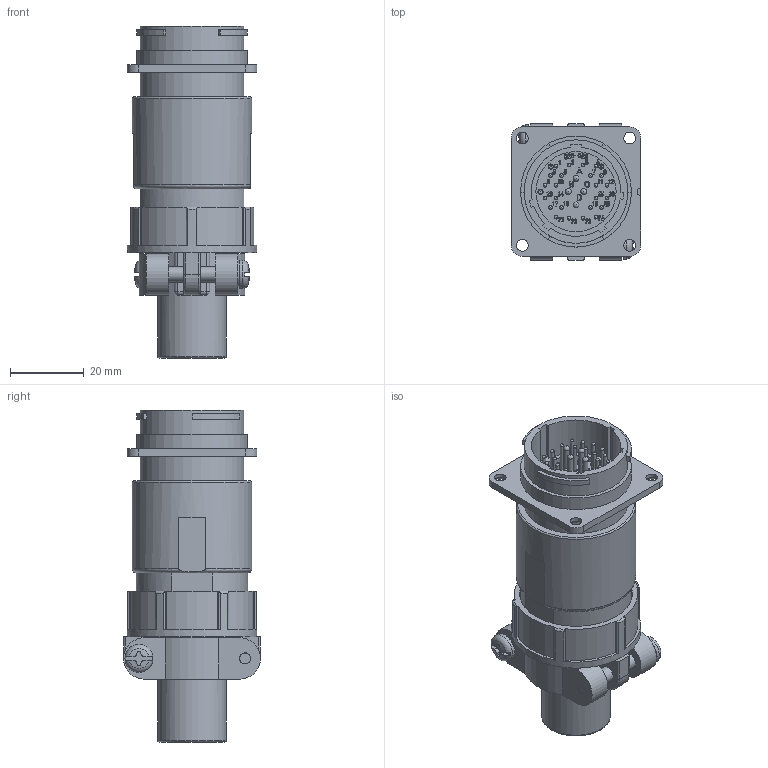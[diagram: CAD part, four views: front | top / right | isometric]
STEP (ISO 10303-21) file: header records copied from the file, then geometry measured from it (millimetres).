
FILE_DESCRIPTION (( 'STEP AP203' ), '1' );
FILE_NAME ('WEBWR2528M-3-D(R1).STEP', '2021-08-10T00:49:08', ( '' ), ( '' ), 'SwSTEP 2.0', 'SolidWorks 2018', '' );
FILE_SCHEMA (( 'CONFIG_CONTROL_DESIGN' ));
Products named in the file (1): WEBWR2528M-3-D(R1)
Bounding box: 35 x 37 x 89.8 mm (x, y, z)
Volume: 40209.2 mm3; surface area: 23634.1 mm2
Topology: 1 solids, 1 shells, 2434 faces, 6724 edges, 4460 vertices
Faces by surface type: bspline 1069, plane 1023, cylinder 248, cone 40, sphere 36, torus 18
Full cylindrical faces by diameter (mm): 1 x24, 1.1 x24, 1.2 x3, 1.4 x4, 1.55 x24, 1.6 x9, 1.7 x4, 2.4 x4, 2.6 x4, 2.8 x2, 3 x2, 3.2 x4, 4.1 x2, 4.3 x4, 7.6 x2, 10 x2, 17.8 x1, 18.64 x1, 19 x1, 21.3 x1, 21.7 x1, 23.2 x1, 23.6 x1, 27.96 x1, 28 x1, 30 x1, 30.5 x1, 32.3 x1, 35 x1
Entity records: 109209 total; most frequent: CARTESIAN_POINT 56076, ORIENTED_EDGE 12690, DIRECTION 7352, EDGE_CURVE 6345, VERTEX_POINT 4293, VECTOR 3582, LINE 3582, EDGE_LOOP 2846
